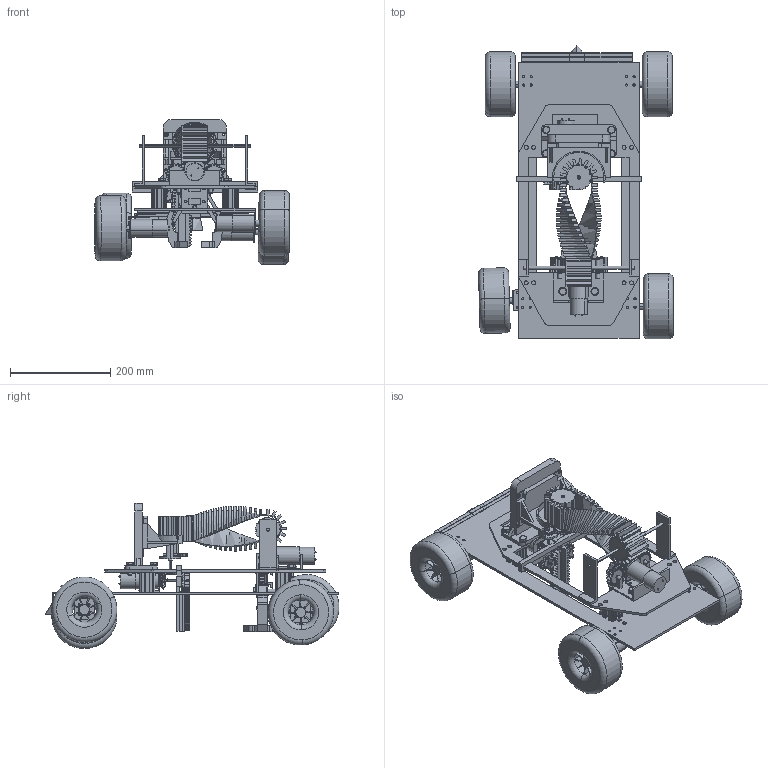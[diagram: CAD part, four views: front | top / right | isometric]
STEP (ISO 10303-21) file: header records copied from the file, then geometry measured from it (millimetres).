
FILE_DESCRIPTION (( 'STEP AP214' ), '1' );
FILE_NAME ('棣醮痄娵苤陬2.0.STEP', '2024-06-28T03:52:57', ( '' ), ( '' ), 'SwSTEP 2.0', 'SolidWorks 2022', '' );
FILE_SCHEMA (( 'AUTOMOTIVE_DESIGN' ));
Length unit declared in the file: millimetre
Products named in the file (48): 圆柱齿轮18×2; 覆土爪部分2; GB／T848-2002小垫圈A级8×1．6; 电机固定架; 插苗上支架; 圆柱齿轮18×2(2); XIN车地板支撑; 覆土爪部分1; GB／T848-2002小垫圈A级5×1; 覆土爪部分8; 覆土爪部分4; GB／T5783-2000六角头螺栓全螺纹M8×42; 覆土爪部分6; 皮带旋转; 电缸板; 车轮2.0; 车底座板2; GB／T97．1-2002平垫圈A级8×1．6; 覆土爪部分3; 开垦部分9; 减速电机; 350; 圆柱齿轮20×2(覆土）; 后小齿传动轴; 圆柱齿轮(少齿)18×2; 小带轮; 开垦起垄; GB／T5783-2000六角头螺栓全螺纹M8×20; 播种电机; 插苗架体; 零件6^萝卜种植小车2.0; 圆锥齿轮17×2; 零件7^萝卜种植小车2.0; GB／T1096-2003普通平键A型2×12; 圆锥齿轮15×2; 前支架; 联轴器; 圆柱齿轮12×2--播种初; 葱苗移栽小车2.0; 圆柱齿轮12×2--播种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
Assembly tree (89 placements, depth 3):
  零件6^萝卜种植小车2.0
  葱苗移栽小车2.0
    电缸板
    开垦起垄
      开垦部分1
      开垦部分9
    排种盘
      圆锥齿轮15×2
      播种电机
      圆锥齿轮17×2
      圆柱齿轮12×2--播种初
      圆柱齿轮18×2--播种初
      减速电机
      电机固定架
    覆土爪
      覆土爪部分1
      覆土爪部分2
      覆土爪部分3  x2
      覆土爪部分4  x2
      覆土爪部分6
      圆柱齿轮(少齿)18×2  x2
      圆柱齿轮20×2(覆土）
      圆柱齿轮18×2(2)
      圆柱齿轮18×2
      齿轮连接件1  x4
      GB／T1096-2003普通平键A型2×12  x2
      覆土爪部分8  x4
      电机固定架
      减速电机
    GB／T5783-2000六角头螺栓全螺纹M8×20  x6
    GB／T97．1-2002平垫圈A级8×1．6  x2
    GB／T5783-2000六角头螺栓全螺纹M8×42
    XIN车地板支撑
    电机固定架  x4
    车轮2.0  x4
    减速电机  x4
    联轴器  x4
    GB／T848-2002小垫圈A级8×1．6  x5
    GB／T848-2002小垫圈A级5×1
    前支架
    350  x4
    车底座板2
    插苗架体
    圆柱齿轮18×2--播种
    圆柱齿轮12×2--播种  x2
    插苗上支架
    零件7^萝卜种植小车2.0  x2
    齿轮轴4
    小带轮  x2
    后小齿传动轴
    rack spur rectangular_gb_GB - Rack-spur - rectangular 2M 20PA 10FW 10PH 120L---SAll  x2
    皮带旋转
Bounding box: 388.33 x 585.53 x 288.99 mm (x, y, z)
Volume: 5159060.9 mm3; surface area: 1195343 mm2
Topology: 86 solids, 86 shells, 3754 faces, 10237 edges, 6670 vertices
Faces by surface type: plane 1563, cylinder 1439, bspline 544, cone 122, torus 86
Entity records: 120341 total; most frequent: CARTESIAN_POINT 61503, ORIENTED_EDGE 12128, DIRECTION 9861, EDGE_CURVE 6064, VERTEX_POINT 3988, AXIS2_PLACEMENT_3D 3526, VECTOR 2809, LINE 2809
